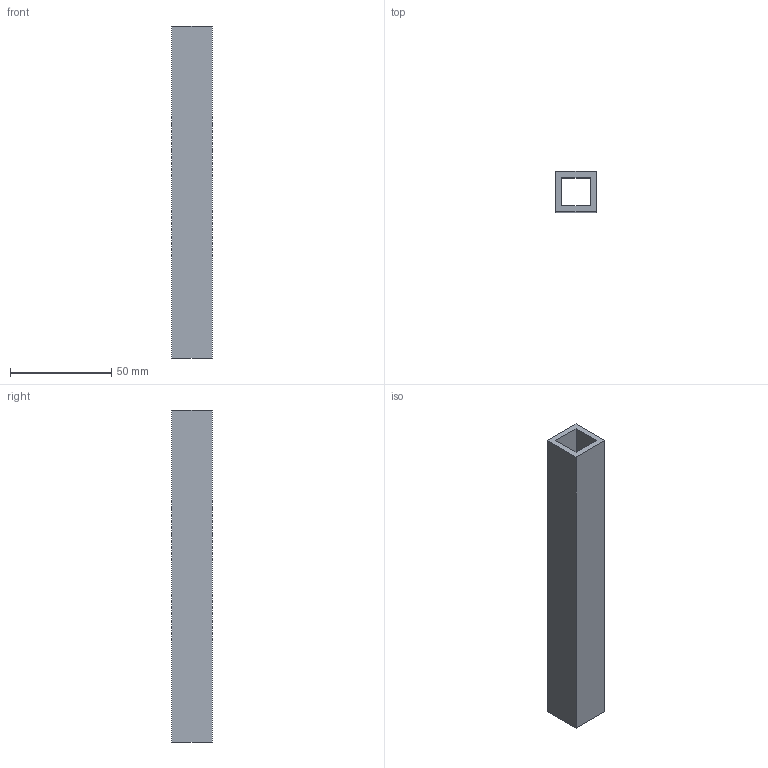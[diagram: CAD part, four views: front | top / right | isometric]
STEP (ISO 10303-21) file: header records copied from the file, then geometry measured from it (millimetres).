
FILE_DESCRIPTION(('Open CASCADE Model'),'2;1');
FILE_NAME('Open CASCADE Shape Model','2026-10-04T01:02:27',('Author'),( 'Open CASCADE'),'Open CASCADE STEP processor 8.0','Open CASCADE 8.0' ,'Unknown');
FILE_SCHEMA(('AUTOMOTIVE_DESIGN { 1 0 10303 214 1 1 1 1 }'));
Length unit declared in the file: millimetre
Products named in the file (1): Open CASCADE STEP translator 8.0 77
Bounding box: 20 x 20 x 164 mm (x, y, z)
Volume: 33456 mm3; surface area: 22712 mm2
Topology: 1 solids, 1 shells, 10 faces, 24 edges, 16 vertices
Faces by surface type: plane 10
Entity records: 598 total; most frequent: CARTESIAN_POINT 115, DIRECTION 78, LINE 56, VECTOR 56, ORIENTED_EDGE 48, PCURVE 48, DEFINITIONAL_REPRESENTATION 48, EDGE_CURVE 24
